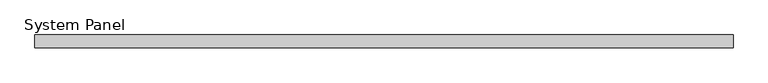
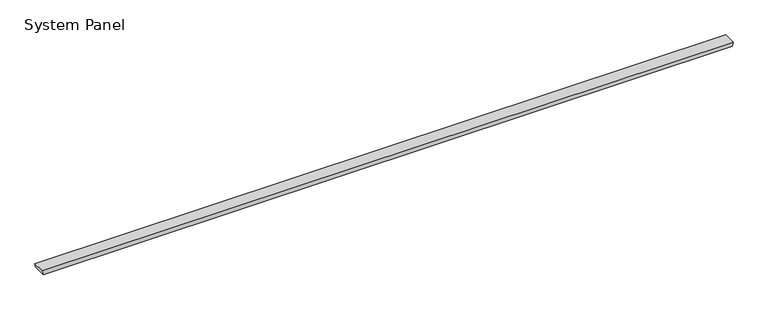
"""IFC4 building model written with IfcOpenShell, lengths in millimetres: plate geometry, System Panel : Equitilt_250mm_Plain_Surfmist."""

from ifc_helpers import new_model, si_unit, frame, origin, place, context, project, spatial, polyline, outline, extrude, source, transform, mapped, element, save


def system_panel_d0ebf1be(model_context):
    return source(origin(), model_context, "Body", "SweptSolid", [
        extrude(outline(polyline([(0.0, -6782.6149856), (0.0, 6782.6149856), (79.9704237, 6800.0), (79.9704237, -6800.0), (0.0, -6782.6149856)])), frame((0.0, -250.0, 0.0), z_axis=(0.0, 1.0, 0.0), x_axis=(0.0, 0.0, 1.0)), (0.0, 0.0, 1.0), 250.0),
    ])


if __name__ == "__main__":
    model = new_model("IFC4")
    model_context = context("Model", 3, world=origin())
    ifc_project = project(units=[si_unit("LENGTHUNIT", "METRE", prefix="MILLI")], contexts=[model_context])
    site = spatial("IfcSite", under=ifc_project)
    building = spatial("IfcBuilding", under=site)
    placement = place(None, origin())
    system_panel_shape = system_panel_d0ebf1be(model_context)
    element("IfcPlate", 1, ObjectType="System Panel : Equitilt_250mm_Plain_Surfmist", at=placement, inside=building, context=model_context, shape_type="MappedRepresentation", body=[
        mapped(system_panel_shape, transform((0.0, 0.0, 0.0), x_axis=(1.0, 0.0, 0.0), y_axis=(0.0, 1.0, 0.0), z_axis=(0.0, 0.0, 1.0))),
    ])
    save(model, "model.ifc")
